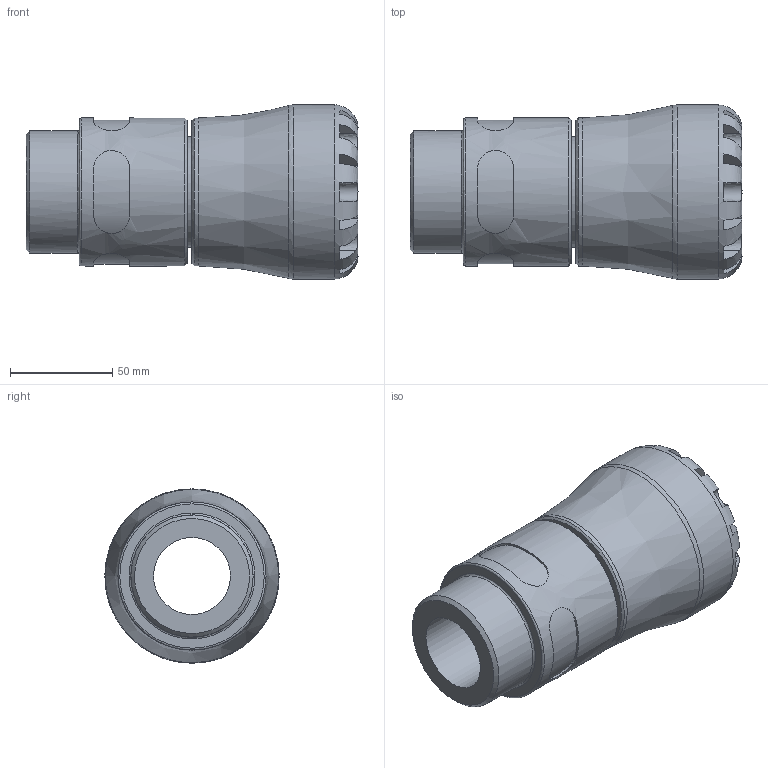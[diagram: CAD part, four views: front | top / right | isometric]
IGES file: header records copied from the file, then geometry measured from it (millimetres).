
Global section: file name: 10N200050020_10N2G0050020; native system: Autodesk Inventor 2019; preprocessor: unknown; author: KIM; date: 20240312.132004; units: millimetre
Bounding box: 162 x 85 x 84.98 mm (x, y, z)
Volume: 437548.7 mm3; surface area: 71781.1 mm2
Topology: 1 solids, 1 shells, 106 faces, 279 edges, 182 vertices
Faces by surface type: bspline 106
